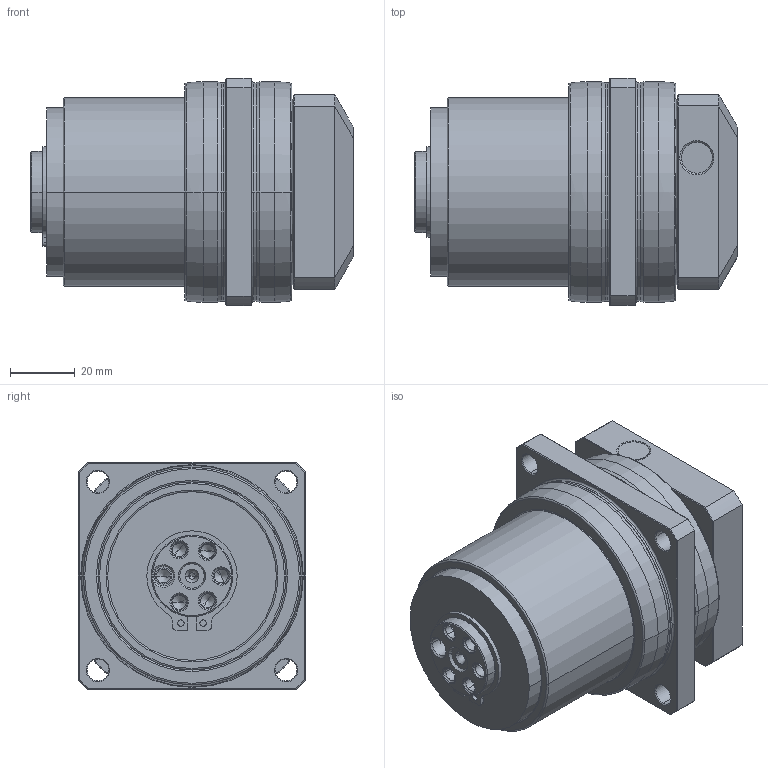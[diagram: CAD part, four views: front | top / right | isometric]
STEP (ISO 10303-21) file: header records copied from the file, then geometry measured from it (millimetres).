
FILE_DESCRIPTION((''),'2;1');
FILE_NAME('PL070_1ST_11-P0411200101_ASM','2016-05-30T',('d00435'),(''),'PRO/ENGINEER BY PARAMETRIC TECHNOLOGY CORPORATION, 2008410','PRO/ENGINEER BY PARAMETRIC TECHNOLOGY CORPORATION, 2008410','');
FILE_SCHEMA(('CONFIG_CONTROL_DESIGN'));
Length unit declared in the file: millimetre
Products named in the file (8): P0272200001; P1352200101; P0366200001; 22802000015; P0503200005; P0941201001; P0411200101; PL070_1ST_11-P0411200101_ASM
Assembly tree (7 placements, depth 2):
  PL070_1ST_11-P0411200101_ASM
    P0272200001
    P1352200101
    P0366200001
    22802000015
    P0503200005
    P0941201001
    P0411200101
Bounding box: 99.5 x 70 x 70 mm (x, y, z)
Volume: 302420.8 mm3; surface area: 73117.9 mm2
Topology: 7 solids, 18 shells, 396 faces, 916 edges, 548 vertices
Faces by surface type: cylinder 130, cone 108, plane 86, torus 56, bspline 16
Entity records: 15863 total; most frequent: CARTESIAN_POINT 6664, DIRECTION 2055, ORIENTED_EDGE 1744, EDGE_CURVE 894, AXIS2_PLACEMENT_3D 867, VERTEX_POINT 548, CIRCLE 466, EDGE_LOOP 450
